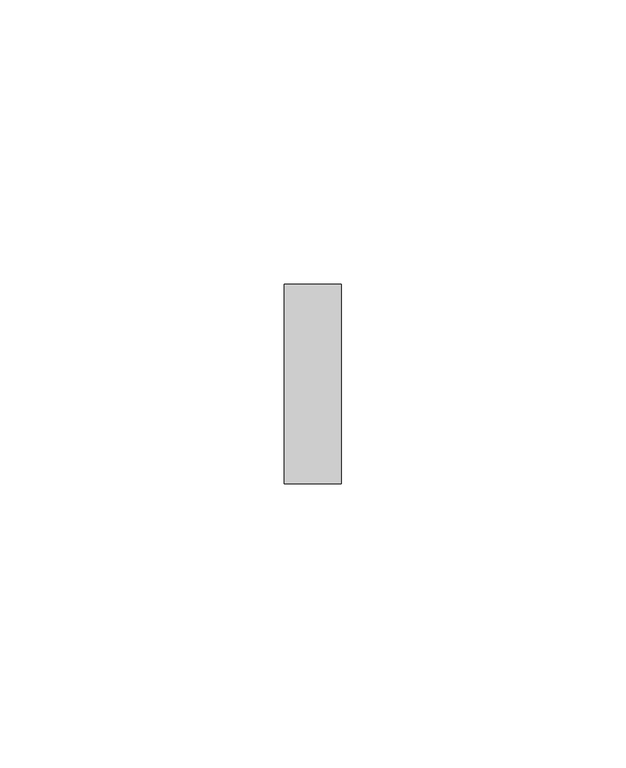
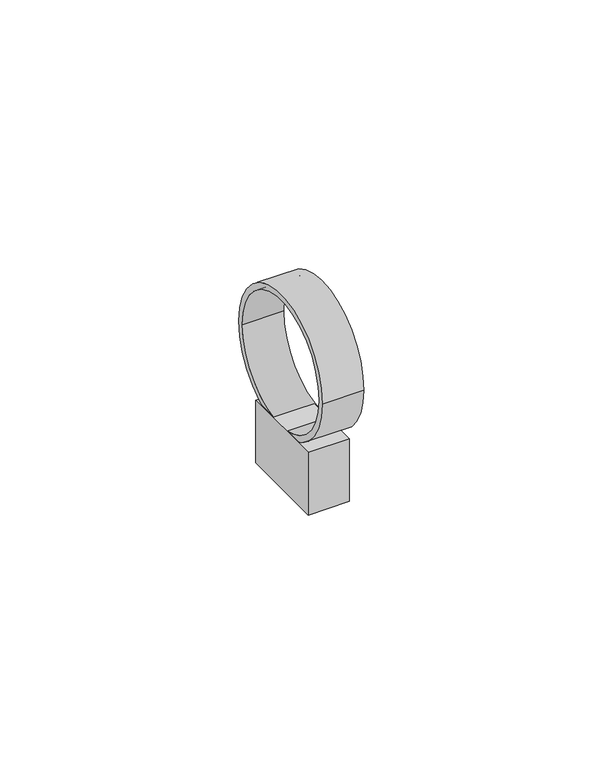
"""IFC4 building model written with IfcOpenShell, lengths in millimetres: cable carrier fitting geometry, Хомутный держатель со стяжкой CFF2 32-63 мм IEK : Хомутный держатель со стяжкой CFF2 32-63 мм IEK."""

import ifcopenshell
import ifcopenshell.guid

model = None  # the IFC model being written
_history = None  # IfcOwnerHistory: only IFC2X3 demands one
_inside = {}  # id of a spatial element -> (the spatial element, [elements in it])
_under = {}  # id of a project, library or spatial element -> (it, [spatial elements below it])
_declared = {}  # id of a project -> (the project, [libraries it declares])
_typed = {}  # id of a type object -> (the type object, [elements of that type])
_made_of = {}  # id of a material, layer set ... -> (it, [elements and type objects made of it])


def new_model(schema):
    """Start an empty IFC model of exactly this schema.

    Asked for "IFC4X3", IfcOpenShell would pick the latest addendum, in which some entities
    have other attributes; the version numbers below select the first issue.
    IFC2X3 requires an IfcOwnerHistory on every rooted entity: one is made here for all.
    """
    global model, _history
    if schema == "IFC4X3":
        model = ifcopenshell.file(schema_version=(4, 3, 0, 0))
    else:
        model = ifcopenshell.file(schema=schema)
    _inside.clear()
    _under.clear()
    _declared.clear()
    _typed.clear()
    _made_of.clear()
    _history = None
    if model.schema == "IFC2X3":
        org = make("IfcOrganization", Name="unknown")
        user = make(
            "IfcPersonAndOrganization",
            ThePerson=make("IfcPerson", FamilyName="unknown"),
            TheOrganization=org,
        )
        app = make(
            "IfcApplication",
            ApplicationDeveloper=org,
            Version="unknown",
            ApplicationFullName="unknown",
            ApplicationIdentifier="unknown",
        )
        _history = make(
            "IfcOwnerHistory",
            OwningUser=user,
            OwningApplication=app,
            ChangeAction="ADDED",
            CreationDate=0,
        )
    return model


def make(cls, **values):
    """One entity of the class cls with the attributes given. An attribute that is None is left unset."""
    return model.create_entity(
        cls, **{name: value for name, value in values.items() if value is not None}
    )


def rooted(cls, **values):
    """An entity with a GlobalId (a new one), such as an element, a storey or a relation."""
    return make(cls, GlobalId=ifcopenshell.guid.new(), OwnerHistory=_history, **values)


def si_unit(unit_type, name, prefix=None):
    """IfcSIUnit, for example si_unit("LENGTHUNIT", "METRE", prefix="MILLI")."""
    return make("IfcSIUnit", UnitType=unit_type, Prefix=prefix, Name=name)


def assignment(units):
    """IfcUnitAssignment: the units of a project."""
    return None if units is None else make("IfcUnitAssignment", Units=units)


def point(xyz):
    """IfcCartesianPoint."""
    return None if xyz is None else make("IfcCartesianPoint", Coordinates=xyz)


def direction(xyz):
    """IfcDirection."""
    return None if xyz is None else make("IfcDirection", DirectionRatios=xyz)


def frame(location, z_axis=None, x_axis=None):
    """IfcAxis2Placement3D, a coordinate frame: its origin and axes. An axis left out is left unset."""
    return make(
        "IfcAxis2Placement3D",
        Location=point(location),
        Axis=direction(z_axis),
        RefDirection=direction(x_axis),
    )


def frame_2d(location, x_axis=None):
    """IfcAxis2Placement2D, a coordinate frame in the plane: its origin and x axis."""
    return make(
        "IfcAxis2Placement2D", Location=point(location), RefDirection=direction(x_axis)
    )


def origin():
    """The frame at (0, 0, 0) with its axes left unset."""
    return frame((0.0, 0.0, 0.0))


def origin_2d():
    """The frame at (0, 0) in the plane with its x axis left unset."""
    return frame_2d((0.0, 0.0))


def place(relative_to, where):
    """IfcLocalPlacement: puts the frame where relative to a parent placement (None: the world)."""
    return make(
        "IfcLocalPlacement", PlacementRelTo=relative_to, RelativePlacement=where
    )


def context(
    kind, dimensions, precision=None, world=None, true_north=None, identifier=None
):
    """IfcGeometricRepresentationContext, for example the 3D "Model" context."""
    return make(
        "IfcGeometricRepresentationContext",
        ContextIdentifier=identifier,
        ContextType=kind,
        CoordinateSpaceDimension=dimensions,
        Precision=precision,
        WorldCoordinateSystem=world,
        TrueNorth=true_north,
    )


def project(units=None, contexts=None):
    """IfcProject with its units and contexts."""
    return rooted(
        "IfcProject",
        Name="project",
        RepresentationContexts=contexts,
        UnitsInContext=assignment(units),
    )


def spatial(cls, under=None, at=None, **own):
    """A site, building, storey or space (cls), placed at a placement, below another one or the project."""
    s = rooted(cls, ObjectPlacement=at, **own)
    if under is not None:
        _under.setdefault(under.id(), (under, []))[1].append(s)
    return s


def polyline(points):
    """IfcPolyline through the points."""
    return make("IfcPolyline", Points=[point(p) for p in points])


def circle_curve(where, radius):
    """IfcCircle in the frame where."""
    return make("IfcCircle", Position=where, Radius=radius)


def trimmed(basis, trim1, trim2, sense, master):
    """IfcTrimmedCurve: the piece of a basis curve between two trims."""
    return make(
        "IfcTrimmedCurve",
        BasisCurve=basis,
        Trim1=trim1,
        Trim2=trim2,
        SenseAgreement=sense,
        MasterRepresentation=master,
    )


def segment(curve, same_sense, transition):
    """IfcCompositeCurveSegment."""
    return make(
        "IfcCompositeCurveSegment",
        Transition=transition,
        SameSense=same_sense,
        ParentCurve=curve,
    )


def composite_curve(segments, self_intersect=None):
    """IfcCompositeCurve: segments joined end to end."""
    return make("IfcCompositeCurve", Segments=segments, SelfIntersect=self_intersect)


def outline(outer, holes=None, kind="AREA"):
    """IfcArbitraryClosedProfileDef: a profile drawn as a closed curve; with holes, ...WithVoids."""
    if holes is None:
        return make("IfcArbitraryClosedProfileDef", ProfileType=kind, OuterCurve=outer)
    return make(
        "IfcArbitraryProfileDefWithVoids",
        ProfileType=kind,
        OuterCurve=outer,
        InnerCurves=holes,
    )


def extrude(swept, where, along, depth):
    """IfcExtrudedAreaSolid: the profile swept, set in the frame where, extruded along a direction by depth."""
    return make(
        "IfcExtrudedAreaSolid",
        SweptArea=swept,
        Position=where,
        ExtrudedDirection=direction(along),
        Depth=depth,
    )


def shape(context_of_items, identifier, shape_type, items):
    """IfcShapeRepresentation: the items that make up one representation, for example the "Body"."""
    return make(
        "IfcShapeRepresentation",
        ContextOfItems=context_of_items,
        RepresentationIdentifier=identifier,
        RepresentationType=shape_type,
        Items=items,
    )


def source(mapping_origin, context_of_items, identifier, shape_type, items):
    """IfcRepresentationMap: a shape defined once, which mapped items show again and again."""
    return make(
        "IfcRepresentationMap",
        MappingOrigin=mapping_origin,
        MappedRepresentation=shape(context_of_items, identifier, shape_type, items),
    )


def transform(
    local_origin,
    x_axis=None,
    y_axis=None,
    z_axis=None,
    scale=None,
    scale2=None,
    scale3=None,
    uniform=True,
):
    """IfcCartesianTransformationOperator3D, or its non-uniform kind. x_axis, y_axis, z_axis: its Axis1, 2, 3."""
    if uniform:
        return make(
            "IfcCartesianTransformationOperator3D",
            Axis1=direction(x_axis),
            Axis2=direction(y_axis),
            LocalOrigin=point(local_origin),
            Scale=scale,
            Axis3=direction(z_axis),
        )
    return make(
        "IfcCartesianTransformationOperator3DnonUniform",
        Axis1=direction(x_axis),
        Axis2=direction(y_axis),
        LocalOrigin=point(local_origin),
        Scale=scale,
        Axis3=direction(z_axis),
        Scale2=scale2,
        Scale3=scale3,
    )


def mapped(mapping_source, mapping_target):
    """IfcMappedItem: shows the shape of a source again, moved by a transform."""
    return make(
        "IfcMappedItem", MappingSource=mapping_source, MappingTarget=mapping_target
    )


def made_of(thing, what):
    """Note that an element or type object is made of a material, layer set ...; save() writes the relation."""
    if what is not None:
        _made_of.setdefault(what.id(), (what, []))[1].append(thing)
    return thing


def element(
    cls,
    number,
    at=None,
    inside=None,
    cuts=None,
    type_object=None,
    material=None,
    context=None,
    identifier="Body",
    shape_type=None,
    held_by="IfcProductDefinitionShape",
    body=None,
    shapes=None,
    **own,
):
    """One element of the class cls, such as IfcWall. Its Tag is "e" and its number.

    at: its placement. inside: the storey or other place that contains it. cuts: it is an
    opening in that element (IfcRelVoidsElement). A single representation is given by context,
    identifier, shape_type and body (its items); several are given by shapes. held_by: the class
    of the entity that holds the representations. save() writes the other relations.
    """
    e = rooted(cls, Tag="e%d" % number, ObjectPlacement=at, **own)
    if body is not None:
        shapes = [shape(context, identifier, shape_type, body)]
    if shapes is not None:
        e.Representation = make(held_by, Representations=shapes)
    if inside is not None:
        _inside.setdefault(inside.id(), (inside, []))[1].append(e)
    if cuts is not None:
        rooted(
            "IfcRelVoidsElement", RelatingBuildingElement=cuts, RelatedOpeningElement=e
        )
    if type_object is not None:
        _typed.setdefault(type_object.id(), (type_object, []))[1].append(e)
    return made_of(e, material)


def aggregate(whole, parts):
    """IfcRelAggregates: a whole, such as a stair, and the parts it consists of."""
    return rooted("IfcRelAggregates", RelatingObject=whole, RelatedObjects=parts)


def save(model, path):
    """Write the relations noted so far, then the file.

    IfcRelAggregates (storeys below a building ...), IfcRelContainedInSpatialStructure (elements
    in a storey), IfcRelDefinesByType, IfcRelAssociatesMaterial and IfcRelDeclares: one each for
    every whole, place, type object, material and project.
    """
    for whole, parts in _under.values():
        aggregate(whole, parts)
    for where, things in _inside.values():
        rooted(
            "IfcRelContainedInSpatialStructure",
            RelatedElements=things,
            RelatingStructure=where,
        )
    for kind, things in _typed.values():
        rooted("IfcRelDefinesByType", RelatedObjects=things, RelatingType=kind)
    for what, things in _made_of.values():
        rooted("IfcRelAssociatesMaterial", RelatedObjects=things, RelatingMaterial=what)
    for by, libraries in _declared.values():
        rooted("IfcRelDeclares", RelatingContext=by, RelatedDefinitions=libraries)
    model.write(path)


def cable_carrier_fitting_0edfbe70(model_context):
    return source(origin(), model_context, "Body", "SweptSolid", [
        extrude(outline(polyline([(5.0, 10.4195258), (5.0, -11.5240345), (-5.0, -11.5240345), (-5.0, 10.4195258), (5.0, 10.4195258)])), frame((0.0, 0.0, -32.0), z_axis=(0.0, 0.0, 1.0), x_axis=(1.0, 0.0, 0.0)), (0.0, 0.0, 1.0), 16.0),
        extrude(outline(composite_curve([segment(trimmed(circle_curve(origin_2d(), 17.5), [point((-17.5, 0.0))], [point((17.5, 0.0))], False, "CARTESIAN"), True, "CONTINUOUS"), segment(trimmed(circle_curve(origin_2d(), 17.5), [point((17.5, 0.0))], [point((-17.5, 0.0))], False, "CARTESIAN"), True, "CONTINUOUS")], self_intersect=False), holes=[composite_curve([segment(trimmed(circle_curve(origin_2d(), 16.0), [point((-16.0, 0.0))], [point((16.0, 0.0))], True, "CARTESIAN"), True, "CONTINUOUS"), segment(trimmed(circle_curve(origin_2d(), 16.0), [point((16.0, 0.0))], [point((-16.0, 0.0))], True, "CARTESIAN"), True, "CONTINUOUS")], self_intersect=False)]), frame((-5.0, 0.0, 0.0), z_axis=(1.0, 0.0, 0.0), x_axis=(0.0, 1.0, 0.0)), (0.0, 0.0, 1.0), 10.0),
    ])


if __name__ == "__main__":
    model = new_model("IFC4")
    model_context = context("Model", 3, world=origin())
    ifc_project = project(units=[si_unit("LENGTHUNIT", "METRE", prefix="MILLI")], contexts=[model_context])
    site = spatial("IfcSite", under=ifc_project)
    building = spatial("IfcBuilding", under=site)
    placement = place(None, origin())
    cable_carrier_fitting_shape = cable_carrier_fitting_0edfbe70(model_context)
    element("IfcCableCarrierFitting", 1, ObjectType="Хомутный держатель со стяжкой CFF2 32-63 мм IEK : Хомутный держатель со стяжкой CFF2 32-63 мм IEK", at=placement, inside=building, context=model_context, shape_type="MappedRepresentation", body=[
        mapped(cable_carrier_fitting_shape, transform((0.0, 0.0, 0.0), x_axis=(1.0, 0.0, 0.0), y_axis=(0.0, 1.0, 0.0), z_axis=(0.0, 0.0, 1.0))),
    ])
    save(model, "model.ifc")
